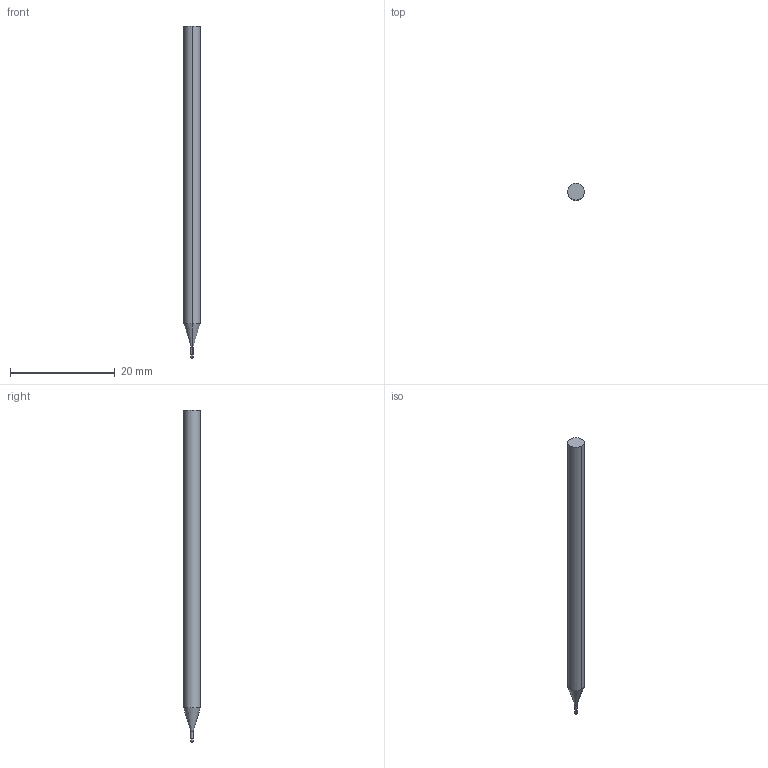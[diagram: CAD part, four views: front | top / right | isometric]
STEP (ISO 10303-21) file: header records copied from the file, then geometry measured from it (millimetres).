
FILE_DESCRIPTION((' '),'2;1');
FILE_NAME( '3MVS0156R.003N5AH.stp', '2026-01-21T19:06:29', (' '), ('--- Datakit www.datakit.com---'), ' Datakit CrossCadWare V2025.4 Sep 19 2025', 'Mastercam 2027', ' ');
FILE_SCHEMA(('AUTOMOTIVE_DESIGN { 1 0 10303 214 1 1 1 1 }'));
Length unit declared in the file: inch
Products named in the file (1): 3MVS0156R
Bounding box: 3.17 x 3.17 x 63.5 mm (x, y, z)
Volume: 465 mm3; surface area: 605.4 mm2
Topology: 1 solids, 1 shells, 12 faces, 22 edges, 12 vertices
Faces by surface type: cylinder 6, plane 2, torus 2, cone 2
Entity records: 377 total; most frequent: DIRECTION 70, CARTESIAN_POINT 51, ORIENTED_EDGE 44, AXIS2_PLACEMENT_3D 31, EDGE_CURVE 22, CIRCLE 14, VERTEX_POINT 12, EDGE_LOOP 12
